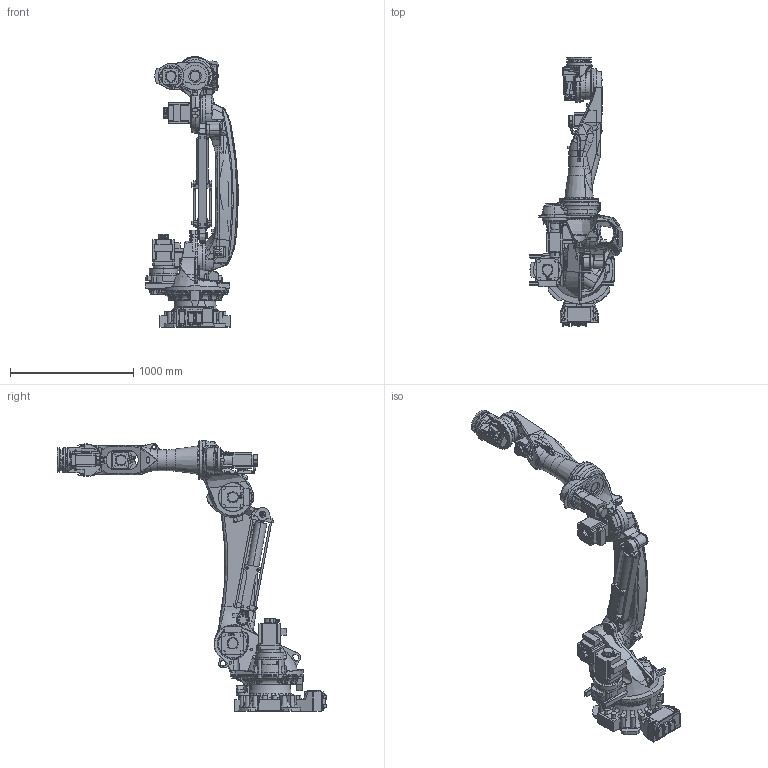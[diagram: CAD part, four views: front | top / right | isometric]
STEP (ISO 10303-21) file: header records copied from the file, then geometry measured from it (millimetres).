
FILE_DESCRIPTION(('CATIA V5 STEP Exchange'),'2;1');
FILE_NAME('F:\☆直近作業\3CX210L-BC01_160223\軽量化\Part\CX210L-BC01\CX165L-BC01\CX165L-BC01 catia-assy.stp','2016-03-04T06:10:29+00:00',('none'),('none'),'CATIA Version 5-6 Release 2013 SP5 HF60','CATIA V5 STEP AP203','none');
FILE_SCHEMA(('CONFIG_CONTROL_DESIGN'));
Products named in the file (1): CX165L-BC01
Assembly tree (13 placements, depth 2):
  CX165L-BC01
    #57
    #17808
    #71411
    #106987
    #138653
    #162105
    #175808
    #177650
    #185588
    #185834
    #195802
    #201247
    #206461
Bounding box: 760 x 2187.72 x 2198.49 mm (x, y, z)
Volume: 177527746 mm3; surface area: 11319411.1 mm2
Topology: 34 solids, 75 shells, 4799 faces, 12584 edges, 8091 vertices
Faces by surface type: plane 2205, cylinder 1059, bspline 764, cone 480, torus 166, sphere 59, extrusion 35, revolution 31
Entity records: 212605 total; most frequent: CARTESIAN_POINT 109701, ORIENTED_EDGE 24851, DIRECTION 14313, EDGE_CURVE 12490, VERTEX_POINT 8087, AXIS2_PLACEMENT_3D 5907, VECTOR 5331, LINE 5296
